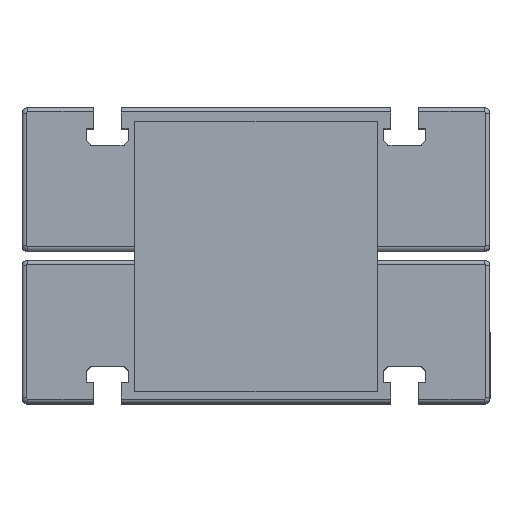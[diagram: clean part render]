
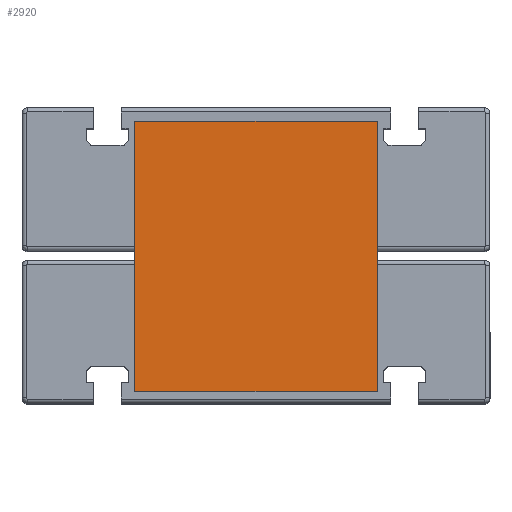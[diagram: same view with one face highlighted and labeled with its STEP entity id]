
A CAD part, top view. The second image highlights one B-rep face of the part: STEP entity #2920.
In plain terms, the highlighted planar face has unit normal (0, 0, 1).
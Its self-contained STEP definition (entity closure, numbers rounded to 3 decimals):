
#504 = VERTEX_POINT ( 'NONE', #7794 ) ;
#746 = EDGE_CURVE ( 'NONE', #6387, #504, #7691, .T. ) ;
#768 = ORIENTED_EDGE ( 'NONE', *, *, #9480, .T. ) ;
#2094 = DIRECTION ( 'NONE',  ( 0., 1., 0. ) ) ;
#2328 = DIRECTION ( 'NONE',  ( 0., 0., -1. ) ) ;
#2422 = DIRECTION ( 'NONE',  ( -1., 0., 0. ) ) ;
#2642 = EDGE_LOOP ( 'NONE', ( #3734, #15388, #7843, #768 ) ) ;
#2920 = ADVANCED_FACE ( 'NONE', ( #12800 ), #10367, .F. ) ;
#3167 = DIRECTION ( 'NONE',  ( 0., -1., 0. ) ) ;
#3734 = ORIENTED_EDGE ( 'NONE', *, *, #746, .T. ) ;
#4691 = CARTESIAN_POINT ( 'NONE',  ( 88., 98., 47.5 ) ) ;
#5926 = EDGE_CURVE ( 'NONE', #11507, #504, #10623, .T. ) ;
#6163 = VERTEX_POINT ( 'NONE', #7208 ) ;
#6387 = VERTEX_POINT ( 'NONE', #15173 ) ;
#6554 = AXIS2_PLACEMENT_3D ( 'NONE', #11691, #2328, #2094 ) ;
#6689 = VECTOR ( 'NONE', #13582, 1000. ) ;
#6889 = LINE ( 'NONE', #4691, #15074 ) ;
#7208 = CARTESIAN_POINT ( 'NONE',  ( 88., 98., 47.5 ) ) ;
#7691 = LINE ( 'NONE', #13627, #10211 ) ;
#7794 = CARTESIAN_POINT ( 'NONE',  ( 0., 0., 47.5 ) ) ;
#7843 = ORIENTED_EDGE ( 'NONE', *, *, #13580, .F. ) ;
#9480 = EDGE_CURVE ( 'NONE', #6163, #6387, #6889, .T. ) ;
#10053 = LINE ( 'NONE', #15027, #6689 ) ;
#10211 = VECTOR ( 'NONE', #3167, 1000. ) ;
#10367 = PLANE ( 'NONE',  #6554 ) ;
#10623 = LINE ( 'NONE', #15394, #11251 ) ;
#11251 = VECTOR ( 'NONE', #14459, 1000. ) ;
#11507 = VERTEX_POINT ( 'NONE', #12207 ) ;
#11691 = CARTESIAN_POINT ( 'NONE',  ( 88., 0., 47.5 ) ) ;
#12207 = CARTESIAN_POINT ( 'NONE',  ( 88., 0., 47.5 ) ) ;
#12800 = FACE_OUTER_BOUND ( 'NONE', #2642, .T. ) ;
#13580 = EDGE_CURVE ( 'NONE', #6163, #11507, #10053, .T. ) ;
#13582 = DIRECTION ( 'NONE',  ( 0., -1., 0. ) ) ;
#13627 = CARTESIAN_POINT ( 'NONE',  ( 0., 0., 47.5 ) ) ;
#14459 = DIRECTION ( 'NONE',  ( -1., 0., 0. ) ) ;
#15027 = CARTESIAN_POINT ( 'NONE',  ( 88., 0., 47.5 ) ) ;
#15074 = VECTOR ( 'NONE', #2422, 1000. ) ;
#15173 = CARTESIAN_POINT ( 'NONE',  ( 0., 98., 47.5 ) ) ;
#15388 = ORIENTED_EDGE ( 'NONE', *, *, #5926, .F. ) ;
#15394 = CARTESIAN_POINT ( 'NONE',  ( 88., 0., 47.5 ) ) ;
